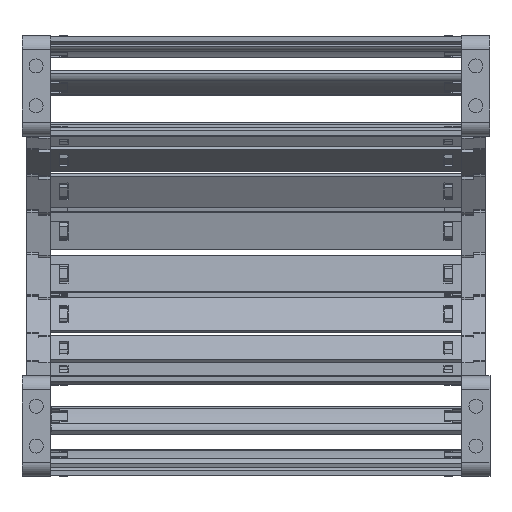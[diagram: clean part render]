
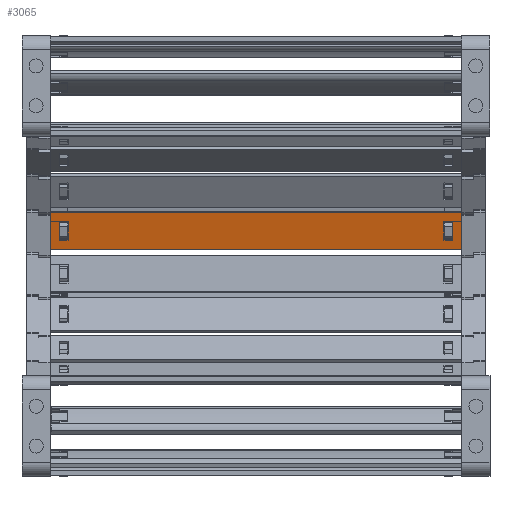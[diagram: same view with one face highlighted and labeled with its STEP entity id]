
A CAD part, left-side view. The second image highlights one B-rep face of the part: STEP entity #3065.
In plain terms, the highlighted planar face has unit normal (-0.976, 0, -0.216) as drawn and (0, 1, 0) by its records, which use the part's own axes.
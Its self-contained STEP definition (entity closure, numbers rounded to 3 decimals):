
#2485=DIRECTION('',(0.,0.,1.));
#2486=VECTOR('',#2485,15.8);
#2487=CARTESIAN_POINT('',(161.24,1.5,-7.9));
#2488=LINE('',#2487,#2486);
#2489=DIRECTION('',(-1.,0.,0.));
#2490=VECTOR('',#2489,176.);
#2491=CARTESIAN_POINT('',(161.24,1.5,7.9));
#2492=LINE('',#2491,#2490);
#2493=DIRECTION('',(0.,0.,-1.));
#2494=VECTOR('',#2493,15.8);
#2495=CARTESIAN_POINT('',(-14.76,1.5,7.9));
#2496=LINE('',#2495,#2494);
#2497=DIRECTION('',(1.,0.,0.));
#2498=VECTOR('',#2497,3.648);
#2499=CARTESIAN_POINT('',(153.622,1.5,4.075));
#2500=LINE('',#2499,#2498);
#2501=DIRECTION('',(0.,0.,-1.));
#2502=VECTOR('',#2501,8.15);
#2503=CARTESIAN_POINT('',(157.27,1.5,4.075));
#2504=LINE('',#2503,#2502);
#2505=DIRECTION('',(-1.,0.,0.));
#2506=VECTOR('',#2505,3.648);
#2507=CARTESIAN_POINT('',(157.27,1.5,-4.075));
#2508=LINE('',#2507,#2506);
#2509=DIRECTION('',(0.,0.,-1.));
#2510=VECTOR('',#2509,8.15);
#2511=CARTESIAN_POINT('',(-7.142,1.5,4.075));
#2512=LINE('',#2511,#2510);
#2513=DIRECTION('',(-1.,0.,0.));
#2514=VECTOR('',#2513,3.648);
#2515=CARTESIAN_POINT('',(-7.142,1.5,-4.075));
#2516=LINE('',#2515,#2514);
#2517=DIRECTION('',(0.,0.,1.));
#2518=VECTOR('',#2517,8.15);
#2519=CARTESIAN_POINT('',(-10.79,1.5,-4.075));
#2520=LINE('',#2519,#2518);
#2521=DIRECTION('',(1.,0.,0.));
#2522=VECTOR('',#2521,3.648);
#2523=CARTESIAN_POINT('',(-10.79,1.5,4.075));
#2524=LINE('',#2523,#2522);
#2529=DIRECTION('',(-1.,0.,0.));
#2530=VECTOR('',#2529,176.);
#2531=CARTESIAN_POINT('',(161.24,1.5,-7.9));
#2532=LINE('',#2531,#2530);
#2650=DIRECTION('',(0.,0.,-1.));
#2651=VECTOR('',#2650,8.15);
#2652=CARTESIAN_POINT('',(153.622,1.5,4.075));
#2653=LINE('',#2652,#2651);
#2835=CARTESIAN_POINT('',(157.27,1.5,4.075));
#2836=VERTEX_POINT('',#2835);
#2837=CARTESIAN_POINT('',(153.622,1.5,4.075));
#2838=VERTEX_POINT('',#2837);
#2879=CARTESIAN_POINT('',(153.622,1.5,-4.075));
#2880=VERTEX_POINT('',#2879);
#2881=CARTESIAN_POINT('',(157.27,1.5,-4.075));
#2882=VERTEX_POINT('',#2881);
#2883=CARTESIAN_POINT('',(161.24,1.5,7.9));
#2885=VERTEX_POINT('',#2883);
#2887=CARTESIAN_POINT('',(161.24,1.5,-7.9));
#2888=VERTEX_POINT('',#2887);
#2911=CARTESIAN_POINT('',(-7.142,1.5,4.075));
#2912=CARTESIAN_POINT('',(-7.142,1.5,-4.075));
#2913=VERTEX_POINT('',#2911);
#2914=VERTEX_POINT('',#2912);
#2915=CARTESIAN_POINT('',(-10.79,1.5,-4.075));
#2916=VERTEX_POINT('',#2915);
#2917=CARTESIAN_POINT('',(-10.79,1.5,4.075));
#2918=VERTEX_POINT('',#2917);
#2919=CARTESIAN_POINT('',(-14.76,1.5,7.9));
#2920=VERTEX_POINT('',#2919);
#2923=CARTESIAN_POINT('',(-14.76,1.5,-7.9));
#2924=VERTEX_POINT('',#2923);
#3034=CARTESIAN_POINT('',(192.98,1.5,10.061));
#3035=DIRECTION('',(0.,-1.,0.));
#3036=DIRECTION('',(0.,0.,-1.));
#3037=AXIS2_PLACEMENT_3D('',#3034,#3035,#3036);
#3038=PLANE('',#3037);
#3039=ORIENTED_EDGE('',*,*,#2973,.T.);
#3040=ORIENTED_EDGE('',*,*,#2999,.T.);
#3041=ORIENTED_EDGE('',*,*,#3012,.T.);
#3043=ORIENTED_EDGE('',*,*,#3042,.F.);
#3044=EDGE_LOOP('',(#3039,#3040,#3041,#3043));
#3045=FACE_OUTER_BOUND('',#3044,.F.);
#3047=ORIENTED_EDGE('',*,*,#3046,.F.);
#3048=ORIENTED_EDGE('',*,*,#2936,.T.);
#3050=ORIENTED_EDGE('',*,*,#3049,.T.);
#3052=ORIENTED_EDGE('',*,*,#3051,.T.);
#3053=EDGE_LOOP('',(#3047,#3048,#3050,#3052));
#3054=FACE_BOUND('',#3053,.F.);
#3056=ORIENTED_EDGE('',*,*,#3055,.T.);
#3058=ORIENTED_EDGE('',*,*,#3057,.T.);
#3060=ORIENTED_EDGE('',*,*,#3059,.T.);
#3062=ORIENTED_EDGE('',*,*,#3061,.T.);
#3063=EDGE_LOOP('',(#3056,#3058,#3060,#3062));
#3064=FACE_BOUND('',#3063,.F.);
#3065=ADVANCED_FACE('',(#3045,#3054,#3064),#3038,.F.);
#2936=EDGE_CURVE('',#2838,#2836,#2500,.T.);
#2973=EDGE_CURVE('',#2888,#2885,#2488,.T.);
#2999=EDGE_CURVE('',#2885,#2920,#2492,.T.);
#3012=EDGE_CURVE('',#2920,#2924,#2496,.T.);
#3042=EDGE_CURVE('',#2888,#2924,#2532,.T.);
#3046=EDGE_CURVE('',#2838,#2880,#2653,.T.);
#3049=EDGE_CURVE('',#2836,#2882,#2504,.T.);
#3051=EDGE_CURVE('',#2882,#2880,#2508,.T.);
#3055=EDGE_CURVE('',#2913,#2914,#2512,.T.);
#3057=EDGE_CURVE('',#2914,#2916,#2516,.T.);
#3059=EDGE_CURVE('',#2916,#2918,#2520,.T.);
#3061=EDGE_CURVE('',#2918,#2913,#2524,.T.);
